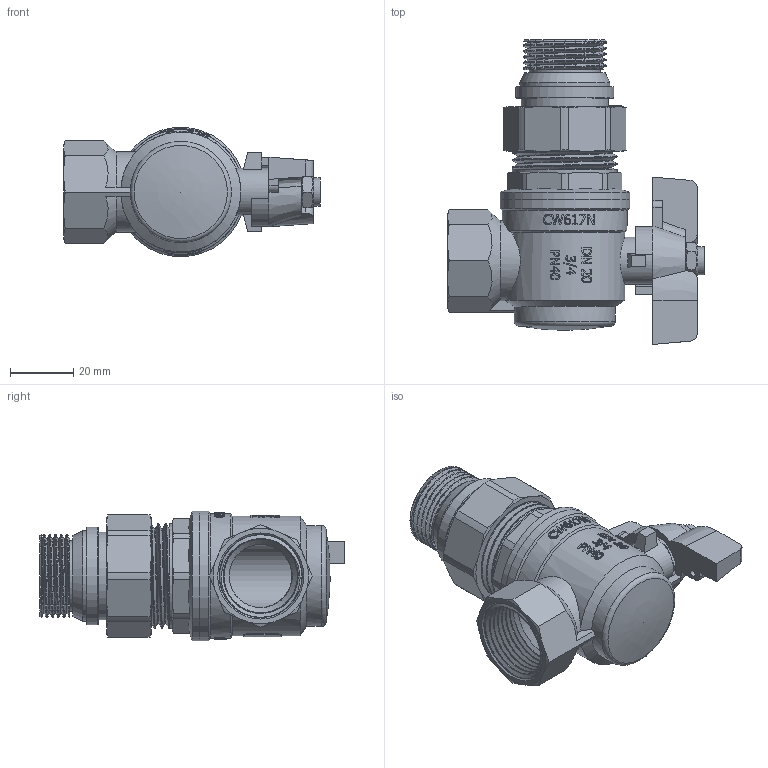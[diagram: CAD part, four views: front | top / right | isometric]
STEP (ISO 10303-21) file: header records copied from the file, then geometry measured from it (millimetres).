
FILE_DESCRIPTION(/* description */ (''),/* implementation_level */ '2;1');
FILE_NAME(/* name */ 'C:\Users\Doom\Desktop\Фадотех\KU2 08.11.2021\KU2 08.11.2021.stp',/* time_stamp */ '2021-12-05T20:16:45+02:00',/* author */ ('Doom'),/* organization */ (''),/* preprocessor_version */ 'ST-DEVELOPER v18',/* originating_system */ 'Autodesk Inventor 2020',/* authorisation */ '');
FILE_SCHEMA (('AUTOMOTIVE_DESIGN { 1 0 10303 214 3 1 1 }'));
Products named in the file (12): KU2 08.11.2021; 20642011; KA2 08.11.2021; 22232386; KA1 08.11.2021; KA1 08.11.2021_1; 27032111; 50102048100; KA2 08.11.2021_1; KA2 08.11.2021_2; DIN 985 - M6; KA2 08.11.2021_3
Assembly tree (11 placements, depth 2):
  KU2 08.11.2021
    20642011
    KA2 08.11.2021
    22232386
    KA1 08.11.2021
    KA1 08.11.2021_1
    27032111
    50102048100
    KA2 08.11.2021_1
    KA2 08.11.2021_2
    DIN 985 - M6
    KA2 08.11.2021_3
Bounding box: 81.1 x 96.5 x 41 mm (x, y, z)
Volume: 61500 mm3; surface area: 61096.8 mm2
Topology: 19 solids, 20 shells, 1585 faces, 4479 edges, 2992 vertices
Faces by surface type: plane 677, bspline 487, cylinder 314, cone 94, torus 12, sphere 1
Full cylindrical faces by diameter (mm): 2 x2, 4.517 x2, 4.917 x1, 8 x2, 8.2 x1, 8.9 x1, 9.146 x4, 10 x1, 10.3 x1, 11 x3, 12.5 x1, 15 x1, 17 x1, 19.5 x1, 20 x5, 20.5 x1, 22.372 x1, 23 x1, 23.5 x1, 23.56 x7, 23.71 x2, 24 x1, 25 x1, 26.1 x1, 26.2 x1, 26.25 x2, 26.5 x1, 27.326 x4, 27.7 x1, 27.9 x1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
Entity records: 96219 total; most frequent: CARTESIAN_POINT 60161, ORIENTED_EDGE 8922, DIRECTION 5121, EDGE_CURVE 4461, VERTEX_POINT 2984, B_SPLINE_CURVE_WITH_KNOTS 2182, AXIS2_PLACEMENT_3D 1874, EDGE_LOOP 1699
